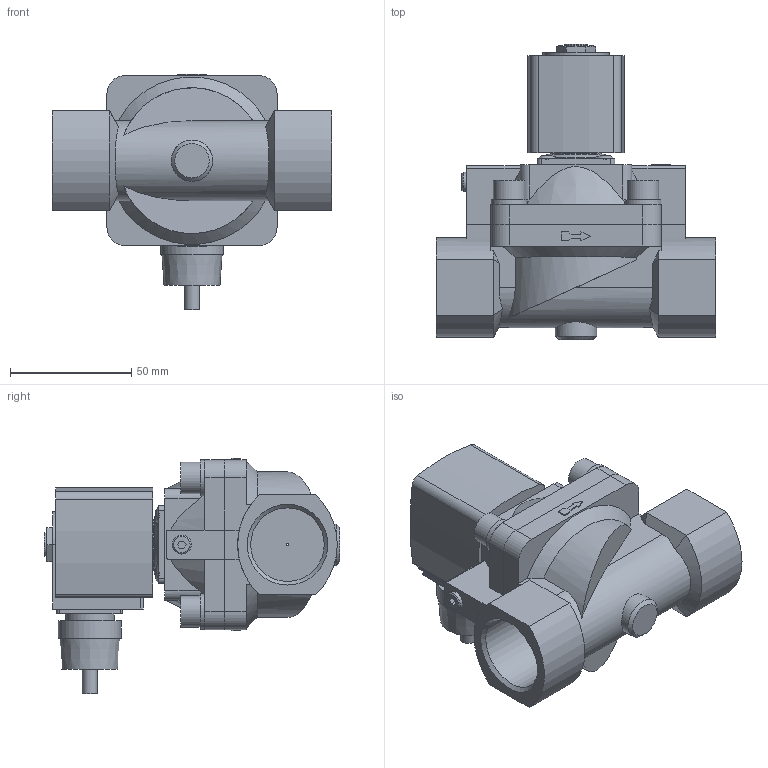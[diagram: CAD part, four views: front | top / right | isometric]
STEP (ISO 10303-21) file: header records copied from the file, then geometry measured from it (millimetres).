
FILE_DESCRIPTION(/* description */ ('STEP AP214'),/* implementation_level */ '2;1');
FILE_NAME(/* name */ '5404-349310-Servo-assisted_2_2_way_piston_valve',/* time_stamp */ '2024-02-29T13:44:58+01:00',/* author */ ('License CC BY-ND 4.0'),/* organization */ ('CADENAS'),/* preprocessor_version */ 'ST-DEVELOPER v19.3',/* originating_system */ 'PARTsolutions',/* authorisation */ ' ');
FILE_SCHEMA (('AUTOMOTIVE_DESIGN {1 0 10303 214 3 1 1}'));
Length unit declared in the file: millimetre
Products named in the file (4): 5404-349310-Servo-assisted 2/2 way piston valve; 5282g-8625MS000-2/2-Wege-Magnetventil_Gehaeuse; 5282d-25MSAU3J-2/2-Wege-Magnetventil_Deckel; AC10ex-6ATEXKabelPlan-Coil
Assembly tree (3 placements, depth 2):
  5404-349310-Servo-assisted 2/2 way piston valve
    5282g-8625MS000-2/2-Wege-Magnetventil_Gehaeuse
    5282d-25MSAU3J-2/2-Wege-Magnetventil_Deckel
    AC10ex-6ATEXKabelPlan-Coil
Bounding box: 115 x 121.6 x 96.8 mm (x, y, z)
Volume: 353738.8 mm3; surface area: 62751.8 mm2
Topology: 3 solids, 3 shells, 260 faces, 641 edges, 422 vertices
Faces by surface type: plane 152, cylinder 81, cone 22, torus 5
Full cylindrical faces by diameter (mm): 1 x1, 4 x4, 6.2 x1, 7.5 x4, 7.6 x4, 7.8 x1, 9.74 x1, 13 x4, 14.8 x4, 17 x1, 20 x1, 21 x1, 26 x1, 30.291 x2
Entity records: 7999 total; most frequent: CARTESIAN_POINT 1514, DIRECTION 1258, ORIENTED_EDGE 1178, EDGE_CURVE 589, AXIS2_PLACEMENT_3D 456, VERTEX_POINT 411, LINE 346, VECTOR 346
